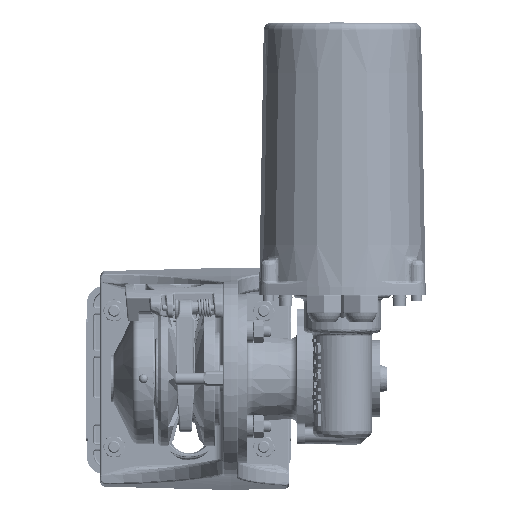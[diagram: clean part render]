
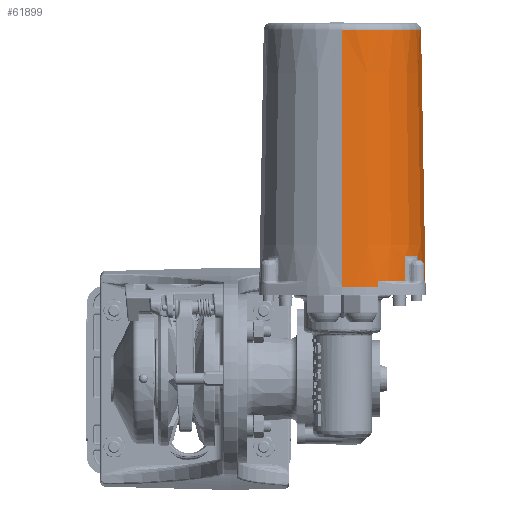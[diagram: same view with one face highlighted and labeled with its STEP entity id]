
A CAD part, front view. The second image highlights one B-rep face of the part: STEP entity #61899.
In plain terms, the highlighted conical face has half-angle 1 degrees and reference radius 53.516 mm.
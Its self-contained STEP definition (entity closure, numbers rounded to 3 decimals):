
#49328=AXIS2_PLACEMENT_3D('Circle Axis2P3D',#49326,#49327,$) ;
#61822=AXIS2_PLACEMENT_3D('Cone Axis2P3D',#61819,#61820,#61821) ;
#61833=AXIS2_PLACEMENT_3D('Circle Axis2P3D',#61831,#61832,$) ;
#61848=AXIS2_PLACEMENT_3D('Circle Axis2P3D',#61846,#61847,$) ;
#61863=AXIS2_PLACEMENT_3D('Circle Axis2P3D',#61861,#61862,$) ;
#61870=AXIS2_PLACEMENT_3D('Circle Axis2P3D',#61868,#61869,$) ;
#61875=AXIS2_PLACEMENT_3D('Circle Axis2P3D',#61873,#61874,$) ;
#61882=AXIS2_PLACEMENT_3D('Circle Axis2P3D',#61880,#61881,$) ;
#49298=CARTESIAN_POINT('Vertex',(102.244,-115.847,186.5)) ;
#49323=CARTESIAN_POINT('Vertex',(79.,-121.,186.5)) ;
#49326=CARTESIAN_POINT('Axis2P3D Location',(79.,-66.,186.5)) ;
#61646=CARTESIAN_POINT('Vertex',(131.031,-66.,356.587)) ;
#61649=CARTESIAN_POINT('Line Origine',(132.477,-66.,273.781)) ;
#61653=CARTESIAN_POINT('Vertex',(133.922,-66.,190.974)) ;
#61790=CARTESIAN_POINT('Vertex',(102.211,-115.776,190.974)) ;
#61793=CARTESIAN_POINT('Line Origine',(102.228,-115.812,188.737)) ;
#61819=CARTESIAN_POINT('Axis2P3D Location',(79.,-66.,271.544)) ;
#61824=CARTESIAN_POINT('Line Origine',(79.,-8818.961,-498119.352)) ;
#61828=CARTESIAN_POINT('Vertex',(79.,-118.031,356.587)) ;
#61831=CARTESIAN_POINT('Axis2P3D Location',(79.,-66.,190.974)) ;
#61835=CARTESIAN_POINT('Vertex',(120.694,-101.749,190.974)) ;
#61839=CARTESIAN_POINT('Control Point',(120.694,-101.749,190.974)) ;
#61840=CARTESIAN_POINT('Control Point',(120.673,-101.627,196.468)) ;
#61841=CARTESIAN_POINT('Control Point',(120.651,-101.505,201.96)) ;
#61842=CARTESIAN_POINT('Control Point',(120.629,-101.382,207.448)) ;
#61843=CARTESIAN_POINT('Vertex',(120.629,-101.382,207.448)) ;
#61846=CARTESIAN_POINT('Axis2P3D Location',(79.,-66.,207.448)) ;
#61850=CARTESIAN_POINT('Vertex',(128.661,-88.776,207.448)) ;
#61854=CARTESIAN_POINT('Control Point',(128.661,-88.776,207.448)) ;
#61855=CARTESIAN_POINT('Control Point',(128.781,-88.744,201.96)) ;
#61856=CARTESIAN_POINT('Control Point',(128.901,-88.712,196.469)) ;
#61857=CARTESIAN_POINT('Control Point',(129.021,-88.68,190.974)) ;
#61858=CARTESIAN_POINT('Vertex',(129.021,-88.68,190.974)) ;
#61861=CARTESIAN_POINT('Axis2P3D Location',(79.,-66.,190.974)) ;
#61865=CARTESIAN_POINT('Vertex',(133.919,-66.543,190.974)) ;
#61868=CARTESIAN_POINT('Axis2P3D Location',(79.,-66.,190.974)) ;
#61873=CARTESIAN_POINT('Axis2P3D Location',(79.,-66.,356.587)) ;
#61877=CARTESIAN_POINT('Vertex',(131.03,-66.367,356.587)) ;
#61880=CARTESIAN_POINT('Axis2P3D Location',(79.,-66.,356.587)) ;
#49327=DIRECTION('Axis2P3D Direction',(0.,0.,1.)) ;
#61650=DIRECTION('Vector Direction',(-0.017,0.,1.)) ;
#61794=DIRECTION('Vector Direction',(-0.007,0.016,1.)) ;
#61820=DIRECTION('Axis2P3D Direction',(0.,0.,-1.)) ;
#61821=DIRECTION('Axis2P3D XDirection',(0.,1.,0.)) ;
#61825=DIRECTION('Vector Direction',(0.,-0.017,-1.)) ;
#61832=DIRECTION('Axis2P3D Direction',(0.,0.,-1.)) ;
#61847=DIRECTION('Axis2P3D Direction',(0.,0.,-1.)) ;
#61862=DIRECTION('Axis2P3D Direction',(0.,0.,-1.)) ;
#61869=DIRECTION('Axis2P3D Direction',(0.,0.,-1.)) ;
#61874=DIRECTION('Axis2P3D Direction',(0.,0.,-1.)) ;
#61881=DIRECTION('Axis2P3D Direction',(0.,0.,-1.)) ;
#61651=VECTOR('Line Direction',#61650,1.) ;
#61795=VECTOR('Line Direction',#61794,1.) ;
#61826=VECTOR('Line Direction',#61825,1.) ;
#61886=ORIENTED_EDGE('',*,*,#61830,.F.) ;
#61887=ORIENTED_EDGE('',*,*,#49330,.T.) ;
#61888=ORIENTED_EDGE('',*,*,#61797,.T.) ;
#61889=ORIENTED_EDGE('',*,*,#61837,.T.) ;
#61890=ORIENTED_EDGE('',*,*,#61845,.T.) ;
#61891=ORIENTED_EDGE('',*,*,#61852,.T.) ;
#61892=ORIENTED_EDGE('',*,*,#61860,.T.) ;
#61893=ORIENTED_EDGE('',*,*,#61867,.T.) ;
#61894=ORIENTED_EDGE('',*,*,#61872,.T.) ;
#61895=ORIENTED_EDGE('',*,*,#61655,.T.) ;
#61896=ORIENTED_EDGE('',*,*,#61879,.F.) ;
#61897=ORIENTED_EDGE('',*,*,#61884,.F.) ;
#61899=ADVANCED_FACE('PartBody.1',(#61898),#61823,.T.) ;
#61838=B_SPLINE_CURVE_WITH_KNOTS('',3,(#61839,#61840,#61841,#61842),.UNSPECIFIED.,.F.,.U.,(4,4),(0.,23.306),.UNSPECIFIED.) ;
#61853=B_SPLINE_CURVE_WITH_KNOTS('',3,(#61854,#61855,#61856,#61857),.UNSPECIFIED.,.F.,.U.,(4,4),(0.,23.306),.UNSPECIFIED.) ;
#49329=CIRCLE('generated circle',#49328,55.) ;
#61834=CIRCLE('generated circle',#61833,54.922) ;
#61849=CIRCLE('generated circle',#61848,54.634) ;
#61864=CIRCLE('generated circle',#61863,54.922) ;
#61871=CIRCLE('generated circle',#61870,54.922) ;
#61876=CIRCLE('generated circle',#61875,52.031) ;
#61883=CIRCLE('generated circle',#61882,52.031) ;
#61823=CONICAL_SURFACE('Cone',#61822,53.516,0.017) ;
#49330=EDGE_CURVE('',#49324,#49299,#49329,.T.) ;
#61655=EDGE_CURVE('',#61654,#61647,#61652,.T.) ;
#61797=EDGE_CURVE('',#49299,#61791,#61796,.T.) ;
#61830=EDGE_CURVE('',#49324,#61829,#61827,.F.) ;
#61837=EDGE_CURVE('',#61791,#61836,#61834,.F.) ;
#61845=EDGE_CURVE('',#61836,#61844,#61838,.T.) ;
#61852=EDGE_CURVE('',#61844,#61851,#61849,.F.) ;
#61860=EDGE_CURVE('',#61851,#61859,#61853,.T.) ;
#61867=EDGE_CURVE('',#61859,#61866,#61864,.F.) ;
#61872=EDGE_CURVE('',#61866,#61654,#61871,.F.) ;
#61879=EDGE_CURVE('',#61878,#61647,#61876,.F.) ;
#61884=EDGE_CURVE('',#61829,#61878,#61883,.F.) ;
#61885=EDGE_LOOP('',(#61886,#61887,#61888,#61889,#61890,#61891,#61892,#61893,#61894,#61895,#61896,#61897)) ;
#61898=FACE_OUTER_BOUND('',#61885,.T.) ;
#61652=LINE('Line',#61649,#61651) ;
#61796=LINE('Line',#61793,#61795) ;
#61827=LINE('Line',#61824,#61826) ;
#49299=VERTEX_POINT('',#49298) ;
#49324=VERTEX_POINT('',#49323) ;
#61647=VERTEX_POINT('',#61646) ;
#61654=VERTEX_POINT('',#61653) ;
#61791=VERTEX_POINT('',#61790) ;
#61829=VERTEX_POINT('',#61828) ;
#61836=VERTEX_POINT('',#61835) ;
#61844=VERTEX_POINT('',#61843) ;
#61851=VERTEX_POINT('',#61850) ;
#61859=VERTEX_POINT('',#61858) ;
#61866=VERTEX_POINT('',#61865) ;
#61878=VERTEX_POINT('',#61877) ;
